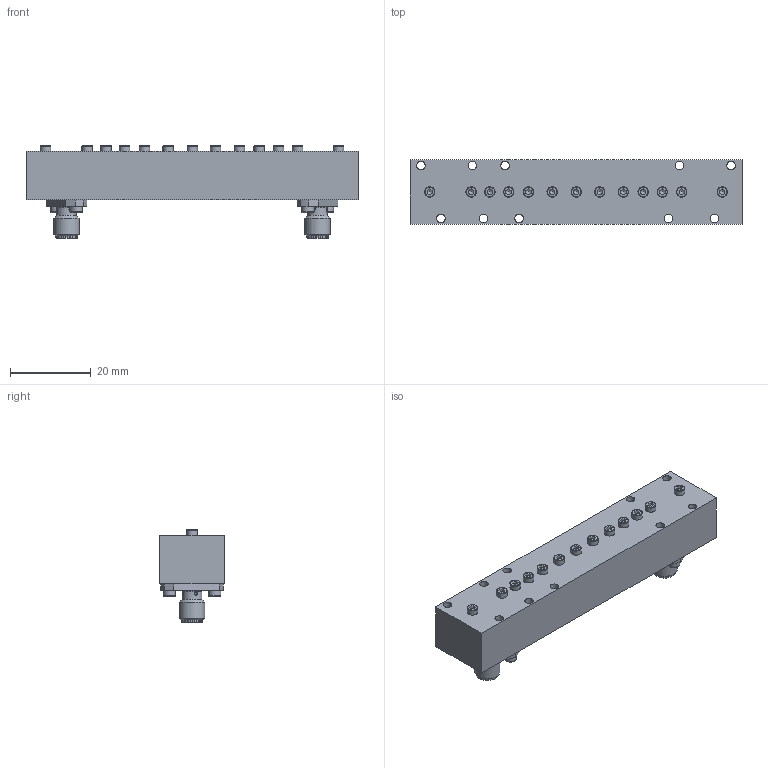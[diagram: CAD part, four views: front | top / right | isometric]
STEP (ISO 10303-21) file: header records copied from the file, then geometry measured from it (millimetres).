
FILE_DESCRIPTION(/* description */ ('Unknown'),/* implementation_level */ '2;1');
FILE_NAME(/* name */ 'DETI_MICROWAVE_BANDPASS_FILTER_001235_STEP',/* time_stamp */ '2021-06-04T13:57:16+02:00',/* author */ ('ALG'),/* organization */ ('DETI'),/* preprocessor_version */ 'ST-DEVELOPER v16.7',/* originating_system */ 'Solid Edge',/* authorisation */ 'Unknown');
FILE_SCHEMA (('AUTOMOTIVE_DESIGN {1 0 10303 214 3 1 1}'));
Length unit declared in the file: millimetre
Products named in the file (1): BPF-CA-7250-7750-CUSTOM-0012352
Bounding box: 82 x 16 x 22.88 mm (x, y, z)
Volume: 16020 mm3; surface area: 6663.7 mm2
Topology: 1 solids, 26 shells, 376 faces, 886 edges, 584 vertices
Faces by surface type: plane 192, cone 82, cylinder 77, torus 25
Full cylindrical faces by diameter (mm): 1.221 x8, 1.275 x2, 1.29 x4, 1.6 x4, 2.1 x10, 2.6 x17, 3 x4, 4.06 x4, 4.1 x4, 4.61 x2, 4.9 x2, 5.35 x2, 6.26 x2
Entity records: 12309 total; most frequent: CARTESIAN_POINT 2013, DIRECTION 1530, ORIENTED_EDGE 1316, EDGE_CURVE 658, AXIS2_PLACEMENT_3D 625, FACE_BOUND 614, EDGE_LOOP 580, VERTEX_POINT 536
